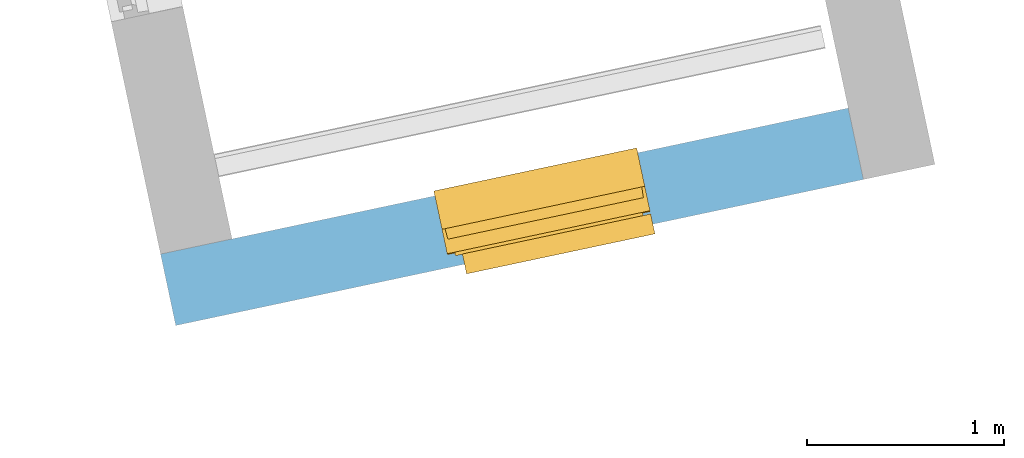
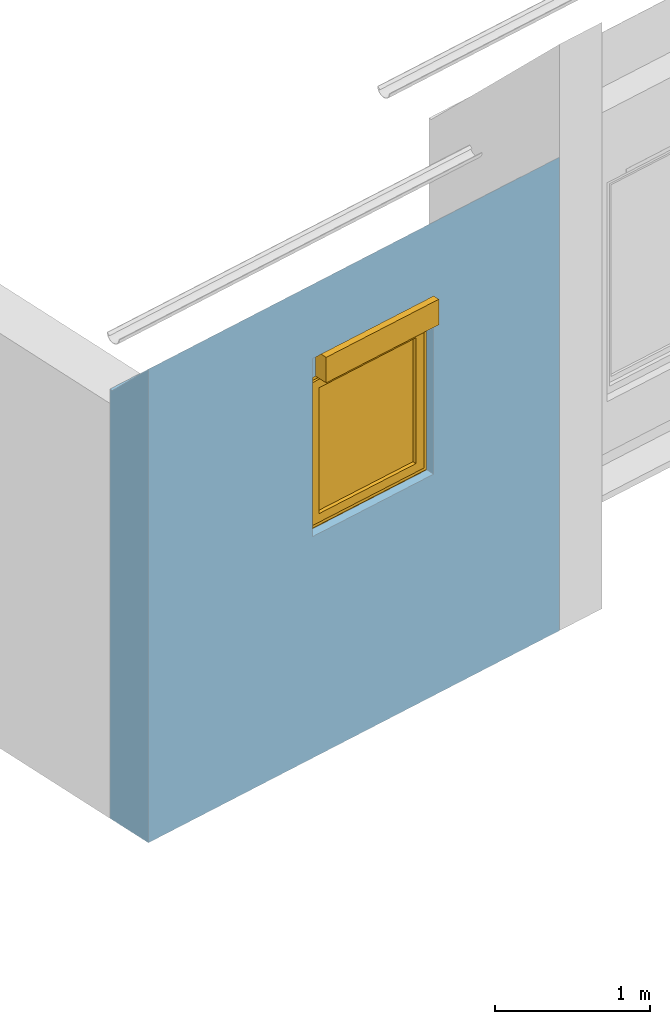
"""IFC2X3 building model written with IfcOpenShell, lengths in centimetres."""

import ifcopenshell
import ifcopenshell.guid

model = None  # the IFC model being written
_history = None  # IfcOwnerHistory: only IFC2X3 demands one
_inside = {}  # id of a spatial element -> (the spatial element, [elements in it])
_under = {}  # id of a project, library or spatial element -> (it, [spatial elements below it])
_declared = {}  # id of a project -> (the project, [libraries it declares])
_typed = {}  # id of a type object -> (the type object, [elements of that type])
_made_of = {}  # id of a material, layer set ... -> (it, [elements and type objects made of it])


def new_model(schema):
    """Start an empty IFC model of exactly this schema.

    Asked for "IFC4X3", IfcOpenShell would pick the latest addendum, in which some entities
    have other attributes; the version numbers below select the first issue.
    IFC2X3 requires an IfcOwnerHistory on every rooted entity: one is made here for all.
    """
    global model, _history
    if schema == "IFC4X3":
        model = ifcopenshell.file(schema_version=(4, 3, 0, 0))
    else:
        model = ifcopenshell.file(schema=schema)
    _inside.clear()
    _under.clear()
    _declared.clear()
    _typed.clear()
    _made_of.clear()
    _history = None
    if model.schema == "IFC2X3":
        org = make("IfcOrganization", Name="unknown")
        user = make(
            "IfcPersonAndOrganization",
            ThePerson=make("IfcPerson", FamilyName="unknown"),
            TheOrganization=org,
        )
        app = make(
            "IfcApplication",
            ApplicationDeveloper=org,
            Version="unknown",
            ApplicationFullName="unknown",
            ApplicationIdentifier="unknown",
        )
        _history = make(
            "IfcOwnerHistory",
            OwningUser=user,
            OwningApplication=app,
            ChangeAction="ADDED",
            CreationDate=0,
        )
    return model


def make(cls, **values):
    """One entity of the class cls with the attributes given. An attribute that is None is left unset."""
    return model.create_entity(
        cls, **{name: value for name, value in values.items() if value is not None}
    )


def entity(cls, *values):
    """Any entity or typed value of the class cls, its attributes in the order of the schema. None: left unset."""
    e = model.create_entity(cls)
    for i, value in enumerate(values):
        if value is not None:
            e[i] = value
    return e


def rooted(cls, **values):
    """An entity with a GlobalId (a new one), such as an element, a storey or a relation."""
    return make(cls, GlobalId=ifcopenshell.guid.new(), OwnerHistory=_history, **values)


def si_unit(unit_type, name, prefix=None):
    """IfcSIUnit, for example si_unit("LENGTHUNIT", "METRE", prefix="MILLI")."""
    return make("IfcSIUnit", UnitType=unit_type, Prefix=prefix, Name=name)


def converted_unit(unit_type, name, factor, base, dimensions=None, offset=None):
    """IfcConversionBasedUnit, such as the inch: factor (a typed value) times the base unit."""
    return make(
        "IfcConversionBasedUnit"
        if offset is None
        else "IfcConversionBasedUnitWithOffset",
        ConversionOffset=offset,
        Dimensions=None
        if dimensions is None
        else entity("IfcDimensionalExponents", *dimensions),
        UnitType=unit_type,
        Name=name,
        ConversionFactor=make(
            "IfcMeasureWithUnit", ValueComponent=factor, UnitComponent=base
        ),
    )


def derived_unit(unit_type, elements):
    """IfcDerivedUnit: a product of units, each with its exponent."""
    return make(
        "IfcDerivedUnit",
        Elements=[
            make("IfcDerivedUnitElement", Unit=unit, Exponent=power)
            for unit, power in elements
        ],
        UnitType=unit_type,
    )


def assignment(units):
    """IfcUnitAssignment: the units of a project."""
    return None if units is None else make("IfcUnitAssignment", Units=units)


def point(xyz):
    """IfcCartesianPoint."""
    return None if xyz is None else make("IfcCartesianPoint", Coordinates=xyz)


def direction(xyz):
    """IfcDirection."""
    return None if xyz is None else make("IfcDirection", DirectionRatios=xyz)


def frame(location, z_axis=None, x_axis=None):
    """IfcAxis2Placement3D, a coordinate frame: its origin and axes. An axis left out is left unset."""
    return make(
        "IfcAxis2Placement3D",
        Location=point(location),
        Axis=direction(z_axis),
        RefDirection=direction(x_axis),
    )


def frame_2d(location, x_axis=None):
    """IfcAxis2Placement2D, a coordinate frame in the plane: its origin and x axis."""
    return make(
        "IfcAxis2Placement2D", Location=point(location), RefDirection=direction(x_axis)
    )


def origin():
    """The frame at (0, 0, 0) with its axes left unset."""
    return frame((0.0, 0.0, 0.0))


def place(relative_to, where):
    """IfcLocalPlacement: puts the frame where relative to a parent placement (None: the world)."""
    return make(
        "IfcLocalPlacement", PlacementRelTo=relative_to, RelativePlacement=where
    )


def context(
    kind, dimensions, precision=None, world=None, true_north=None, identifier=None
):
    """IfcGeometricRepresentationContext, for example the 3D "Model" context."""
    return make(
        "IfcGeometricRepresentationContext",
        ContextIdentifier=identifier,
        ContextType=kind,
        CoordinateSpaceDimension=dimensions,
        Precision=precision,
        WorldCoordinateSystem=world,
        TrueNorth=true_north,
    )


def subcontext(parent, identifier, kind, view, scale=None):
    """IfcGeometricRepresentationSubContext, for example "Body" below "Model"."""
    return make(
        "IfcGeometricRepresentationSubContext",
        ContextIdentifier=identifier,
        ContextType=kind,
        ParentContext=parent,
        TargetScale=scale,
        TargetView=view,
    )


def project(units=None, contexts=None):
    """IfcProject with its units and contexts."""
    return rooted(
        "IfcProject",
        Name="project",
        RepresentationContexts=contexts,
        UnitsInContext=assignment(units),
    )


def spatial(cls, under=None, at=None, **own):
    """A site, building, storey or space (cls), placed at a placement, below another one or the project."""
    s = rooted(cls, ObjectPlacement=at, **own)
    if under is not None:
        _under.setdefault(under.id(), (under, []))[1].append(s)
    return s


def polyline(points):
    """IfcPolyline through the points."""
    return make("IfcPolyline", Points=[point(p) for p in points])


def profile(cls, at=None, kind="AREA", **sizes):
    """A parametric profile (cls). Its sizes go by their IFC names, for example OverallWidth=200.0."""
    return make(cls, ProfileType=kind, Position=at, **sizes)


def rectangle(**sizes):
    """IfcRectangleProfileDef."""
    return profile("IfcRectangleProfileDef", **sizes)


def extrude(swept, where, along, depth):
    """IfcExtrudedAreaSolid: the profile swept, set in the frame where, extruded along a direction by depth."""
    return make(
        "IfcExtrudedAreaSolid",
        SweptArea=swept,
        Position=where,
        ExtrudedDirection=direction(along),
        Depth=depth,
    )


def clip(a, b, op="DIFFERENCE"):
    """IfcBooleanClippingResult: the solid a cut by the half space b."""
    return make(
        "IfcBooleanClippingResult", Operator=op, FirstOperand=a, SecondOperand=b
    )


def bounded_halfspace(plane, agree, where, boundary):
    """IfcPolygonalBoundedHalfSpace: a half space limited to a polygon's prism."""
    return make(
        "IfcPolygonalBoundedHalfSpace",
        BaseSurface=make("IfcPlane", Position=plane),
        AgreementFlag=agree,
        Position=where,
        PolygonalBoundary=boundary,
    )


def faces_of(points, faces, orient=None, outer=None):
    """IfcFace entities. A face is a list of loops; a loop is a list of indices into points, from 0.

    orient and outer hold one flag for each loop. By default every Orientation is true, the
    first loop of a face is its IfcFaceOuterBound and the others are IfcFaceBound.
    """
    made = []
    for i, loops in enumerate(faces):
        bounds = []
        for j, loop in enumerate(loops):
            is_outer = j == 0 if outer is None else outer[i][j]
            bounds.append(
                make(
                    "IfcFaceOuterBound" if is_outer else "IfcFaceBound",
                    Bound=make("IfcPolyLoop", Polygon=[points[k] for k in loop]),
                    Orientation=True if orient is None else orient[i][j],
                )
            )
        made.append(make("IfcFace", Bounds=bounds))
    return made


def faceted_brep(points, faces, orient=None, outer=None, voids=None):
    """IfcFacetedBrep: a solid bounded by flat faces; with voids (closed shells), ...WithVoids."""
    shared = [point(p) for p in points]
    hull = make("IfcClosedShell", CfsFaces=faces_of(shared, faces, orient, outer))
    if voids is None:
        return make("IfcFacetedBrep", Outer=hull)
    return make(
        "IfcFacetedBrepWithVoids",
        Outer=hull,
        Voids=[
            make(cls, CfsFaces=faces_of(shared, fs, o, b)) for cls, fs, o, b in voids
        ],
    )


def shape(context_of_items, identifier, shape_type, items):
    """IfcShapeRepresentation: the items that make up one representation, for example the "Body"."""
    return make(
        "IfcShapeRepresentation",
        ContextOfItems=context_of_items,
        RepresentationIdentifier=identifier,
        RepresentationType=shape_type,
        Items=items,
    )


def source(mapping_origin, context_of_items, identifier, shape_type, items):
    """IfcRepresentationMap: a shape defined once, which mapped items show again and again."""
    return make(
        "IfcRepresentationMap",
        MappingOrigin=mapping_origin,
        MappedRepresentation=shape(context_of_items, identifier, shape_type, items),
    )


def transform(
    local_origin,
    x_axis=None,
    y_axis=None,
    z_axis=None,
    scale=None,
    scale2=None,
    scale3=None,
    uniform=True,
):
    """IfcCartesianTransformationOperator3D, or its non-uniform kind. x_axis, y_axis, z_axis: its Axis1, 2, 3."""
    if uniform:
        return make(
            "IfcCartesianTransformationOperator3D",
            Axis1=direction(x_axis),
            Axis2=direction(y_axis),
            LocalOrigin=point(local_origin),
            Scale=scale,
            Axis3=direction(z_axis),
        )
    return make(
        "IfcCartesianTransformationOperator3DnonUniform",
        Axis1=direction(x_axis),
        Axis2=direction(y_axis),
        LocalOrigin=point(local_origin),
        Scale=scale,
        Axis3=direction(z_axis),
        Scale2=scale2,
        Scale3=scale3,
    )


def mapped(mapping_source, mapping_target):
    """IfcMappedItem: shows the shape of a source again, moved by a transform."""
    return make(
        "IfcMappedItem", MappingSource=mapping_source, MappingTarget=mapping_target
    )


def material(Name=None, Category=None):
    """IfcMaterial."""
    return make("IfcMaterial", Name=Name, Category=Category)


def material_list(materials):
    """IfcMaterialList."""
    return make("IfcMaterialList", Materials=materials)


def layer(
    of_material, thickness, ventilated=None, Name=None, Category=None, Priority=None
):
    """IfcMaterialLayer: one layer of a wall or slab, of a material (None: an air gap)."""
    return make(
        "IfcMaterialLayer",
        Material=of_material,
        LayerThickness=thickness,
        IsVentilated=ventilated,
        Name=Name,
        Category=Category,
        Priority=Priority,
    )


def layer_set(layers, Name=None):
    """IfcMaterialLayerSet."""
    return make("IfcMaterialLayerSet", MaterialLayers=layers, LayerSetName=Name)


def layer_usage(for_layer_set, set_direction, sense, offset, extent=None):
    """IfcMaterialLayerSetUsage: how a layer set lies in its element."""
    return make(
        "IfcMaterialLayerSetUsage",
        ForLayerSet=for_layer_set,
        LayerSetDirection=set_direction,
        DirectionSense=sense,
        OffsetFromReferenceLine=offset,
        ReferenceExtent=extent,
    )


def made_of(thing, what):
    """Note that an element or type object is made of a material, layer set ...; save() writes the relation."""
    if what is not None:
        _made_of.setdefault(what.id(), (what, []))[1].append(thing)
    return thing


def type_object(cls, material=None, **own):
    """A type object (cls), such as IfcWallType, which elements share."""
    return made_of(rooted(cls, **own), material)


def type_shapes(of_type, sources):
    """Give a type object the sources (RepresentationMaps) that its elements show as mapped items."""
    of_type.RepresentationMaps = sources


def element(
    cls,
    number,
    at=None,
    inside=None,
    cuts=None,
    type_object=None,
    material=None,
    context=None,
    identifier="Body",
    shape_type=None,
    held_by="IfcProductDefinitionShape",
    body=None,
    shapes=None,
    **own,
):
    """One element of the class cls, such as IfcWall. Its Tag is "e" and its number.

    at: its placement. inside: the storey or other place that contains it. cuts: it is an
    opening in that element (IfcRelVoidsElement). A single representation is given by context,
    identifier, shape_type and body (its items); several are given by shapes. held_by: the class
    of the entity that holds the representations. save() writes the other relations.
    """
    e = rooted(cls, Tag="e%d" % number, ObjectPlacement=at, **own)
    if body is not None:
        shapes = [shape(context, identifier, shape_type, body)]
    if shapes is not None:
        e.Representation = make(held_by, Representations=shapes)
    if inside is not None:
        _inside.setdefault(inside.id(), (inside, []))[1].append(e)
    if cuts is not None:
        rooted(
            "IfcRelVoidsElement", RelatingBuildingElement=cuts, RelatedOpeningElement=e
        )
    if type_object is not None:
        _typed.setdefault(type_object.id(), (type_object, []))[1].append(e)
    return made_of(e, material)


def fill(opening, filler):
    """IfcRelFillsElement: the door or window that sits in an opening."""
    return rooted(
        "IfcRelFillsElement",
        RelatingOpeningElement=opening,
        RelatedBuildingElement=filler,
    )


def aggregate(whole, parts):
    """IfcRelAggregates: a whole, such as a stair, and the parts it consists of."""
    return rooted("IfcRelAggregates", RelatingObject=whole, RelatedObjects=parts)


def save(model, path):
    """Write the relations noted so far, then the file.

    IfcRelAggregates (storeys below a building ...), IfcRelContainedInSpatialStructure (elements
    in a storey), IfcRelDefinesByType, IfcRelAssociatesMaterial and IfcRelDeclares: one each for
    every whole, place, type object, material and project.
    """
    for whole, parts in _under.values():
        aggregate(whole, parts)
    for where, things in _inside.values():
        rooted(
            "IfcRelContainedInSpatialStructure",
            RelatedElements=things,
            RelatingStructure=where,
        )
    for kind, things in _typed.values():
        rooted("IfcRelDefinesByType", RelatedObjects=things, RelatingType=kind)
    for what, things in _made_of.values():
        rooted("IfcRelAssociatesMaterial", RelatedObjects=things, RelatingMaterial=what)
    for by, libraries in _declared.values():
        rooted("IfcRelDeclares", RelatingContext=by, RelatedDefinitions=libraries)
    model.write(path)


model = new_model("IFC2X3")

# Units and contexts
model_context = context("Model", 3, precision=0.001, world=origin(), true_north=direction((6.12303176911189e-17, 1.0)))
body_context = subcontext(model_context, "Body", "Model", "MODEL_VIEW")
ifc_project = project(units=[si_unit("LENGTHUNIT", "METRE", prefix="CENTI"), si_unit("AREAUNIT", "SQUARE_METRE"), si_unit("VOLUMEUNIT", "CUBIC_METRE"), converted_unit("PLANEANGLEUNIT", "DEGREE", entity("IfcRatioMeasure", 0.0174532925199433), si_unit("PLANEANGLEUNIT", "RADIAN"), dimensions=[0, 0, 0, 0, 0, 0, 0]), si_unit("MASSUNIT", "GRAM", prefix="KILO"), derived_unit("MASSDENSITYUNIT", [(si_unit("MASSUNIT", "GRAM", prefix="KILO"), 1), (si_unit("LENGTHUNIT", "METRE"), -3)]), derived_unit("IONCONCENTRATIONUNIT", [(si_unit("MASSUNIT", "GRAM", prefix="KILO"), 1), (si_unit("LENGTHUNIT", "METRE"), -3)]), derived_unit("MOMENTOFINERTIAUNIT", [(si_unit("LENGTHUNIT", "METRE"), 4)]), si_unit("TIMEUNIT", "SECOND"), si_unit("FREQUENCYUNIT", "HERTZ"), si_unit("THERMODYNAMICTEMPERATUREUNIT", "DEGREE_CELSIUS"), derived_unit("THERMALTRANSMITTANCEUNIT", [(si_unit("MASSUNIT", "GRAM", prefix="KILO"), 1), (si_unit("THERMODYNAMICTEMPERATUREUNIT", "KELVIN"), -1), (si_unit("TIMEUNIT", "SECOND"), -3)]), derived_unit("THERMALCONDUCTANCEUNIT", [(si_unit("MASSUNIT", "GRAM", prefix="KILO"), 1), (si_unit("THERMODYNAMICTEMPERATUREUNIT", "KELVIN"), -1), (si_unit("TIMEUNIT", "SECOND"), -3), (si_unit("LENGTHUNIT", "METRE"), 1)]), derived_unit("VOLUMETRICFLOWRATEUNIT", [(si_unit("LENGTHUNIT", "METRE"), 3), (si_unit("TIMEUNIT", "SECOND"), -1)]), derived_unit("MASSFLOWRATEUNIT", [(si_unit("MASSUNIT", "GRAM", prefix="KILO"), 1), (si_unit("TIMEUNIT", "SECOND"), -1)]), derived_unit("ROTATIONALFREQUENCYUNIT", [(si_unit("TIMEUNIT", "SECOND"), -1)]), si_unit("ELECTRICCURRENTUNIT", "AMPERE"), si_unit("ELECTRICVOLTAGEUNIT", "VOLT"), si_unit("POWERUNIT", "WATT"), si_unit("FORCEUNIT", "NEWTON", prefix="KILO"), si_unit("ILLUMINANCEUNIT", "LUX"), si_unit("LUMINOUSFLUXUNIT", "LUMEN"), si_unit("LUMINOUSINTENSITYUNIT", "CANDELA"), derived_unit("USERDEFINED", [(si_unit("MASSUNIT", "GRAM", prefix="KILO"), -1), (si_unit("LENGTHUNIT", "METRE"), -2), (si_unit("TIMEUNIT", "SECOND"), 3), (si_unit("LUMINOUSFLUXUNIT", "LUMEN"), 1)]), derived_unit("USERDEFINED", [(si_unit("MASSUNIT", "GRAM", prefix="KILO"), 1), (si_unit("TIMEUNIT", "SECOND"), -3), (si_unit("LENGTHUNIT", "METRE"), 3), (si_unit("ELECTRICCURRENTUNIT", "AMPERE"), -2)]), derived_unit("SOUNDPOWERUNIT", [(si_unit("MASSUNIT", "GRAM", prefix="KILO"), 1), (si_unit("TIMEUNIT", "SECOND"), -3), (si_unit("LENGTHUNIT", "METRE"), 2)]), derived_unit("SOUNDPRESSUREUNIT", [(si_unit("MASSUNIT", "GRAM", prefix="KILO"), 1), (si_unit("LENGTHUNIT", "METRE"), -1), (si_unit("TIMEUNIT", "SECOND"), -2)]), derived_unit("LINEARVELOCITYUNIT", [(si_unit("LENGTHUNIT", "METRE"), 1), (si_unit("TIMEUNIT", "SECOND"), -1)]), si_unit("PRESSUREUNIT", "PASCAL"), derived_unit("USERDEFINED", [(si_unit("MASSUNIT", "GRAM", prefix="KILO"), 1), (si_unit("LENGTHUNIT", "METRE"), -2), (si_unit("TIMEUNIT", "SECOND"), -2)]), derived_unit("LINEARFORCEUNIT", [(si_unit("MASSUNIT", "GRAM", prefix="KILO"), 1), (si_unit("TIMEUNIT", "SECOND"), -2)]), derived_unit("PLANARFORCEUNIT", [(si_unit("MASSUNIT", "GRAM", prefix="KILO"), 1), (si_unit("LENGTHUNIT", "METRE"), -1), (si_unit("TIMEUNIT", "SECOND"), -2)]), derived_unit("SPECIFICHEATCAPACITYUNIT", [(si_unit("THERMODYNAMICTEMPERATUREUNIT", "KELVIN"), -1), (si_unit("LENGTHUNIT", "METRE"), 2), (si_unit("TIMEUNIT", "SECOND"), -2)]), derived_unit("HEATINGVALUEUNIT", [(si_unit("LENGTHUNIT", "METRE"), 2), (si_unit("TIMEUNIT", "SECOND"), -2)]), derived_unit("VAPORPERMEABILITYUNIT", [(si_unit("LENGTHUNIT", "METRE"), -1), (si_unit("TIMEUNIT", "SECOND"), 1)]), derived_unit("DYNAMICVISCOSITYUNIT", [(si_unit("MASSUNIT", "GRAM", prefix="KILO"), 1), (si_unit("TIMEUNIT", "SECOND"), -1), (si_unit("LENGTHUNIT", "METRE"), -1)]), derived_unit("THERMALEXPANSIONCOEFFICIENTUNIT", [(si_unit("THERMODYNAMICTEMPERATUREUNIT", "KELVIN"), -1)]), derived_unit("MODULUSOFELASTICITYUNIT", [(si_unit("MASSUNIT", "GRAM", prefix="KILO"), 1), (si_unit("LENGTHUNIT", "METRE"), -1), (si_unit("TIMEUNIT", "SECOND"), -2)]), derived_unit("ISOTHERMALMOISTURECAPACITYUNIT", [(si_unit("LENGTHUNIT", "METRE"), 3), (si_unit("MASSUNIT", "GRAM", prefix="KILO"), -1)]), derived_unit("MOISTUREDIFFUSIVITYUNIT", [(si_unit("TIMEUNIT", "SECOND"), -1), (si_unit("LENGTHUNIT", "METRE"), 2)])], contexts=[model_context])

# Site, building, storey
site_placement = place(None, frame((14083.8920177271, -6853.25409548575, 6900.0), z_axis=(0.0, 0.0, 1.0), x_axis=(0.978188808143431, 0.207717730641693, 0.0)))
site = spatial("IfcSite", under=ifc_project, at=site_placement, Name="Surface", CompositionType="ELEMENT")
building_placement = place(site_placement, origin())
building = spatial("IfcBuilding", under=site, at=building_placement, CompositionType="ELEMENT")
storey_1_placement = place(building_placement, frame((0.0, 0.0, -17.0)))
storey_1 = spatial("IfcBuildingStorey", under=building, at=storey_1_placement, Name="Rez de chaussée (SD)", CompositionType="ELEMENT", Elevation=-16.9999999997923)

# Wall, opening
ifc_material_1 = material(Name="__ ENDUIT_Blanc")
ifc_layer_1 = layer(ifc_material_1, 2.0)
ifc_material_2 = material(Name="__ BETON_parpaings")
ifc_layer_2 = layer(ifc_material_2, 20.0)
ifc_material_3 = material(Name="__ ISOLANT (pat 1)")
ifc_layer_3 = layer(ifc_material_3, 13.0)
ifc_layer_4 = layer(ifc_material_1, 2.0)
ifc_layer_set = layer_set([ifc_layer_1, ifc_layer_2, ifc_layer_3, ifc_layer_4], Name="Mur de base:*BRIQUE 37 (20 +INT 13+2 + EXT 2) (Iso+BA13)(enduit)")
ifc_layer_usage = layer_usage(ifc_layer_set, "AXIS2", "NEGATIVE", 18.5)
wall_type = type_object("IfcWallType", Name="Mur de base:*BRIQUE 37 (20 +INT 13+2 + EXT 2) (Iso+BA13)(enduit)", PredefinedType="STANDARD", material=ifc_layer_set)
wall_placement = place(storey_1_placement, frame((-7163.9551432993, 15432.4391445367, -20.0)))
wall = element("IfcWallStandardCase", 1, at=wall_placement, inside=storey_1, type_object=wall_type, material=ifc_layer_usage, Name="Mur de base:*BRIQUE 37 (20 +INT 13+2 + EXT 2) (Iso+BA13)(enduit)", ObjectType="Mur de base:*BRIQUE 37 (20 +INT 13+2 + EXT 2) (Iso+BA13)(enduit)", context=body_context, shape_type="Clipping", body=[
    clip(clip(extrude(rectangle(XDim=356.000000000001, YDim=37.0000000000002, at=frame_2d((178.0, -8.66862137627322e-13), x_axis=(-1.0, 0.0))), origin(), (0.0, 0.0, 1.0), 371.999999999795), bounded_halfspace(frame((0.0, -18.500000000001, 372.0), z_axis=(0.0, 0.707106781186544, 0.707106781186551), x_axis=(-1.0, 0.0, 0.0)), False, frame((0.0, -18.500000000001, 372.0)), polyline([(0.0, 0.0), (356.0, 0.0), (356.0, 34.6740981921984), (0.0, 34.6740981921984), (0.0, 0.0)]))), bounded_halfspace(frame((356.0, 18.4999999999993, 337.325901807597), z_axis=(0.0, 0.0, -1.0), x_axis=(-1.0, 0.0, 0.0)), True, frame((356.0, 18.4999999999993, 337.325901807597)), polyline([(0.0, 0.0), (-356.0, 0.0), (-356.0, -2.32590180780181), (0.0, -2.32590180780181), (0.0, 0.0)]))),
])
opening_placement = place(wall_placement, frame((142.0, -23.4999999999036, 168.385044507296)))
opening = element("IfcOpeningElement", 2, at=opening_placement, cuts=wall, Name="Mur de base:*BRIQUE 37 (20 +INT 13+2 + EXT 2) (Iso+BA13)(enduit)", ObjectType="Opening", context=body_context, shape_type="Brep", body=[
    faceted_brep([(0.0, 0.0, 145.614955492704), (105.0, 0.0, 145.614955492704), (105.0, 10.2999999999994, 145.614955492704), (0.0, 10.2999999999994, 145.614955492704), (0.0, 0.0, 125.614955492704), (0.0, 5.0, 125.614955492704), (105.0, 5.0, 125.614955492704), (105.0, 0.0, 125.614955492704), (0.0, 5.0, 5.61495549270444), (105.0, 5.0, 5.61495549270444), (0.0, 42.0, 125.614955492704), (105.0, 42.0, 125.614955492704), (105.0, 42.0, 5.61495549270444), (0.0, 42.0, 5.61495549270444), (0.0, 10.2999999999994, 125.614955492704), (0.0, 44.500000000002, 5.61495549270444), (0.0, 44.500000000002, 0.0), (0.0, 13.9974883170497, 2.11559678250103), (0.0, 11.5000000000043, 2.11559678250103), (0.0, 11.5000000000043, 5.61495549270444), (105.0, 11.500000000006, 5.61495549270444), (105.0, 11.500000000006, 2.11559678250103), (105.0, 13.9974883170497, 2.11559678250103), (105.0, 44.500000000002, 0.0), (105.0, 44.500000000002, 5.61495549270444), (105.0, 30.3, 125.614955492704), (105.0, 30.3, 125.714955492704), (105.0, 30.2000000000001, 125.714955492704), (105.0, 30.2000000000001, 125.614955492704), (105.0, 10.2999999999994, 125.614955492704), (104.9, 30.2000000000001, 125.614955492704), (104.9, 30.3, 125.614955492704), (104.9, 30.2000000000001, 125.714955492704), (104.9, 30.3, 125.714955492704)], [[[0, 1, 2, 3]], [[4, 5, 6, 7]], [[4, 7, 1, 0]], [[6, 5, 8, 9]], [[10, 11, 12, 13]], [[5, 4, 0, 3, 14, 10, 13, 15, 16, 17, 18, 19, 8]], [[8, 19, 20, 9]], [[9, 20, 21, 22, 23, 24, 12, 11, 25, 26, 27, 28, 29, 2, 1, 7, 6]], [[10, 14, 29, 28, 30, 31, 25, 11]], [[17, 22, 21, 18]], [[18, 21, 20, 19]], [[15, 13, 12, 24]], [[15, 24, 23, 16]], [[16, 23, 22, 17]], [[32, 33, 31, 30]], [[32, 27, 26, 33]], [[33, 26, 25, 31]], [[30, 28, 27, 32]], [[3, 2, 29, 14]]]),
])

# Storey
storey_2_placement = place(building_placement, frame((0.0, 0.0, 17.0)))
storey_2 = spatial("IfcBuildingStorey", under=building, at=storey_2_placement, Name="Rez de chaussée", CompositionType="ELEMENT", Elevation=17.0000000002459)

# Window
ifc_material_4 = material(Name="<Unnamed>")
ifc_material_5 = material(Name="Fenêtre - Vitrage")
ifc_material_6 = material(Name="__ PVC_blanc (menuiseries)")
ifc_material_list = material_list([ifc_material_4, ifc_material_5, ifc_material_6])
window_style = type_object("IfcWindowStyle", Name="*PVC 1 VANTAIL1:OF 105x120", ConstructionType="NOTDEFINED", OperationType="NOTDEFINED", ParameterTakesPrecedence=False, Sizeable=False, material=ifc_material_list)
shared_shape = source(origin(), body_context, "Body", "Brep", [
    faceted_brep([(5.0, -31.5000000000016, 48.6149554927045), (15.0, -31.5000000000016, 48.6149554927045), (15.0, -29.5000000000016, 48.6149554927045), (5.0, -29.5000000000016, 48.6149554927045), (5.0, -31.5000000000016, 46.6149554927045), (5.0, -29.5000000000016, 46.6149554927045), (15.0, -29.5000000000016, 46.6149554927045), (15.0, -31.5000000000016, 46.6149554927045)], [[[0, 1, 2, 3]], [[4, 5, 6, 7]], [[1, 0, 4, 7]], [[2, 1, 7, 6]], [[3, 2, 6, 5]], [[0, 3, 5, 4]]]),
    faceted_brep([(5.0, -29.5000000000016, 50.6149554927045), (10.0, -29.5000000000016, 50.6149554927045), (10.0, -27.5000000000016, 50.6149554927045), (5.0, -27.5000000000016, 50.6149554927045), (5.0, -29.5000000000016, 45.6149554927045), (5.0, -27.5000000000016, 45.6149554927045), (10.0, -27.5000000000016, 45.6149554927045), (10.0, -29.5000000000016, 45.6149554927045)], [[[0, 1, 2, 3]], [[4, 5, 6, 7]], [[1, 0, 4, 7]], [[2, 1, 7, 6]], [[3, 2, 6, 5]], [[0, 3, 5, 4]]]),
    faceted_brep([(9.58351504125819, -32.2470370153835, 116.031440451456), (95.4164849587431, -32.2470370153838, 116.031440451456), (95.4164849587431, -31.4628216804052, 116.031440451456), (9.58351504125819, -31.4628216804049, 116.031440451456), (9.58351504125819, -32.2470370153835, 15.1984705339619), (9.58351504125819, -31.4628216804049, 15.1984705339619), (95.4164849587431, -31.4628216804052, 15.1984705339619), (95.4164849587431, -32.2470370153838, 15.1984705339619)], [[[0, 1, 2, 3]], [[4, 5, 6, 7]], [[1, 0, 4, 7]], [[2, 1, 7, 6]], [[3, 2, 6, 5]], [[0, 3, 5, 4]]]),
    faceted_brep([(95.4164849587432, -30.2602611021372, 116.031440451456), (9.5835150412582, -30.260261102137, 116.031440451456), (9.58351504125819, -30.260261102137, 15.1984705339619), (95.4164849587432, -30.2602611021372, 15.1984705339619), (95.4164849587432, -29.4602611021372, 116.031440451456), (95.4164849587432, -29.4602611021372, 15.1984705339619), (9.5835150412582, -29.460261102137, 116.031440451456), (9.5835150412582, -29.460261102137, 15.1984705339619)], [[[0, 1, 2, 3]], [[4, 0, 3, 5]], [[6, 4, 5, 7]], [[1, 6, 7, 2]], [[2, 7, 5, 3]], [[1, 0, 4, 6]]]),
    faceted_brep([(95.4164849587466, -32.2470370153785, 116.031440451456), (95.4164849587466, -29.4602611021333, 116.031440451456), (95.4164849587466, -29.4602611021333, 15.1984705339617), (95.4164849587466, -32.2470370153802, 15.1984705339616), (94.4308358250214, -34.3410294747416, 115.04579131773), (93.6686848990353, -32.2470370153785, 114.283640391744), (93.6686848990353, -32.2470370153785, 16.946270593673), (94.4308358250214, -34.3410294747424, 16.1841196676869), (101.123663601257, -32.4970370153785, 121.738619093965), (101.123663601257, -34.3410294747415, 121.738619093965), (101.123663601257, -34.3410294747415, 9.49129189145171), (101.123663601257, -32.4970370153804, 9.49129189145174), (98.7136636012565, -27.5808758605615, 119.328619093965), (98.7136636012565, -32.4970370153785, 119.328619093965), (98.7136636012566, -32.4970370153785, 11.9012918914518), (98.7136636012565, -27.5808758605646, 11.9012918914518), (93.645961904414, -29.4602611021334, 114.260917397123), (94.3300021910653, -27.5808758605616, 114.944957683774), (94.3300021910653, -27.5808758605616, 16.284953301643), (93.645961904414, -29.460261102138, 16.9689935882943), (9.58351504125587, -29.4602611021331, 15.1984705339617), (9.58351504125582, -32.2470370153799, 15.1984705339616), (11.3313151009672, -32.2470370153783, 16.946270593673), (10.5691641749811, -34.3410294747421, 16.1841196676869), (3.8763363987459, -34.3410294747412, 9.49129189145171), (3.8763363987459, -32.4970370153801, 9.49129189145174), (6.28633639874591, -32.4970370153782, 11.9012918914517), (6.28633639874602, -27.5808758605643, 11.9012918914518), (10.6699978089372, -27.5808758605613, 16.284953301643), (11.3540380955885, -29.4602611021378, 16.9689935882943), (9.58351504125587, -29.4602611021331, 116.031440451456), (9.58351504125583, -32.2470370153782, 116.031440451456), (11.3313151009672, -32.2470370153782, 114.283640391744), (10.5691641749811, -34.3410294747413, 115.04579131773), (3.8763363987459, -34.3410294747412, 121.738619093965), (3.8763363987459, -32.4970370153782, 121.738619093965), (6.28633639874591, -32.4970370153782, 119.328619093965), (6.28633639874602, -27.5808758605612, 119.328619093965), (10.6699978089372, -27.5808758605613, 114.944957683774), (11.3540380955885, -29.4602611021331, 114.260917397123)], [[[0, 1, 2, 3]], [[4, 5, 6, 7]], [[8, 9, 10, 11]], [[12, 13, 14, 15]], [[16, 17, 18, 19]], [[3, 2, 20, 21]], [[7, 6, 22, 23]], [[11, 10, 24, 25]], [[15, 14, 26, 27]], [[19, 18, 28, 29]], [[21, 20, 30, 31]], [[23, 22, 32, 33]], [[25, 24, 34, 35]], [[27, 26, 36, 37]], [[29, 28, 38, 39]], [[31, 30, 1, 0]], [[3, 21, 31, 0], [5, 32, 22, 6]], [[33, 32, 5, 4]], [[7, 23, 33, 4], [9, 34, 24, 10]], [[35, 34, 9, 8]], [[11, 25, 35, 8], [13, 36, 26, 14]], [[37, 36, 13, 12]], [[15, 27, 37, 12], [17, 38, 28, 18]], [[39, 38, 17, 16]], [[1, 30, 20, 2], [19, 29, 39, 16]]], outer=[[True], [True], [True], [True], [True], [True], [True], [True], [True], [True], [True], [True], [True], [True], [True], [True], [True, False], [True], [False, True], [True], [True, False], [True], [True, False], [True], [True, False]]),
    faceted_brep([(105.0, -19.8517126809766, 125.614955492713), (103.409026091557, -19.8517126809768, 125.614955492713), (103.121178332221, -25.3441751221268, 125.614955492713), (1.87882166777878, -25.3441751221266, 125.614955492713), (1.59097390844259, -19.8517126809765, 125.614955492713), (0.0, -19.8517126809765, 125.614955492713), (0.0, -32.5000000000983, 125.614955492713), (105.0, -32.5000000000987, 125.614955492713), (0.0, -32.5000000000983, 5.61495549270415), (0.0, -19.8517126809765, 5.61495549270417), (1.59097390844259, -19.8517126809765, 7.20592940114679), (103.409026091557, -19.8517126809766, 7.20592940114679), (105.0, -19.8517126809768, 5.61495549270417), (1.87882166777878, -25.3441751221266, 7.493777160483), (103.121178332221, -25.3441751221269, 7.493777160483), (99.3116576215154, -25.3441751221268, 11.3032978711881), (99.3116576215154, -25.3441751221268, 119.926613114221), (5.68834237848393, -25.3441751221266, 119.926613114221), (5.68834237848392, -25.3441751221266, 11.3032978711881), (6.28633639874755, -27.0808758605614, 11.9012918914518), (6.28633639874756, -27.0808758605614, 119.328619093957), (6.28633639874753, -27.5808758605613, 11.9012918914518), (6.28633639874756, -27.5808758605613, 119.328619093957), (98.7136636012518, -27.5808758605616, 119.328619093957), (98.7136636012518, -27.5808758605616, 11.9012918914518), (3.87692312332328, -27.5808758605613, 9.49187861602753), (101.123076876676, -27.5808758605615, 9.49187861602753), (101.123076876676, -27.5808758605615, 121.738032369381), (3.8769231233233, -27.5808758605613, 121.738032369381), (3.87692312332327, -32.5000000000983, 9.49187861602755), (3.8769231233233, -32.5000000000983, 121.738032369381), (105.0, -32.5000000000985, 5.61495549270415), (101.123076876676, -32.5000000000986, 121.738032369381), (101.123076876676, -32.5000000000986, 9.49187861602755), (98.7136636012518, -27.0808758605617, 119.328619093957), (98.7136636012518, -27.0808758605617, 11.9012918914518)], [[[0, 1, 2, 3, 4, 5, 6, 7]], [[8, 6, 5, 9]], [[5, 4, 10, 11, 1, 0, 12, 9]], [[4, 3, 13, 10]], [[3, 2, 14, 13], [15, 16, 17, 18]], [[19, 18, 17, 20]], [[21, 19, 20, 22]], [[21, 22, 23, 24], [25, 26, 27, 28]], [[29, 25, 28, 30]], [[7, 6, 8, 31], [29, 30, 32, 33]], [[32, 30, 28, 27]], [[23, 22, 20, 34]], [[17, 16, 34, 20]], [[26, 25, 29, 33]], [[19, 21, 24, 35]], [[15, 18, 19, 35]], [[11, 10, 13, 14]], [[8, 9, 12, 31]], [[27, 26, 33, 32]], [[35, 24, 23, 34]], [[15, 35, 34, 16]], [[14, 2, 1, 11]], [[12, 0, 7, 31]]], outer=[[True], [True], [True], [True], [True, False], [True], [True], [False, True], [True], [True, False], [True], [True], [True], [True], [True], [True], [True], [True], [True], [True], [True], [True], [True]]),
    faceted_brep([(105.0, -33.0, 2.11559678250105), (105.0, -30.5025116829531, 2.11559678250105), (105.0, -0.500000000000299, 0.0346790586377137), (105.0, -0.500000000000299, -1.4653209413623), (105.0, 0.0, -1.4653209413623), (105.0, 0.0, 0.501201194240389), (105.0, -30.4759468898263, 2.61495549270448), (105.0, -32.5000000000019, 2.61495549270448), (105.0, -32.5000000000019, 5.61495549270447), (105.0, -33.0, 5.61495549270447), (0.0, -33.0, 2.11559678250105), (0.0, -33.0, 5.61495549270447), (0.0, -32.5000000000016, 5.61495549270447), (0.0, -32.5000000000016, 2.61495549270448), (0.0, -30.475946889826, 2.61495549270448), (0.0, 0.0, 0.501201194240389), (0.0, 0.0, -1.4653209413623), (0.0, -0.499999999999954, -1.4653209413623), (0.0, -0.499999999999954, 0.0346790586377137), (0.0, -30.5025116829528, 2.11559678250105)], [[[0, 1, 2, 3, 4, 5, 6, 7, 8, 9]], [[10, 11, 12, 13, 14, 15, 16, 17, 18, 19]], [[9, 11, 10, 0]], [[8, 12, 11, 9]], [[7, 13, 12, 8]], [[6, 14, 13, 7]], [[5, 15, 14, 6]], [[4, 16, 15, 5]], [[3, 17, 16, 4]], [[2, 18, 17, 3]], [[1, 19, 18, 2]], [[0, 10, 19, 1]]]),
    faceted_brep([(105.0, -44.500000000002, 145.614955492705), (105.0, -44.500000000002, 125.614955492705), (105.0, -43.200000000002, 125.614955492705), (105.0, -43.200000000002, 145.614955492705), (7.50000000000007, -44.5000000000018, 145.614955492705), (7.50000000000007, -43.2000000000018, 145.614955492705), (7.50000000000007, -43.2000000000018, 125.614955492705), (7.50000000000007, -44.5000000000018, 125.614955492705)], [[[0, 1, 2, 3]], [[4, 5, 6, 7]], [[5, 4, 0, 3]], [[6, 5, 3, 2]], [[7, 6, 2, 1]], [[4, 7, 1, 0]]]),
    faceted_brep([(105.0, -43.200000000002, 145.614955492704), (105.0, -43.200000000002, 125.614955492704), (105.0, -34.200000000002, 125.614955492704), (105.0, -34.200000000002, 145.614955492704), (7.50000000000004, -43.2000000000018, 145.614955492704), (7.50000000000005, -34.2000000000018, 145.614955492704), (7.50000000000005, -34.2000000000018, 125.614955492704), (7.50000000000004, -43.2000000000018, 125.614955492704)], [[[0, 1, 2, 3]], [[4, 5, 6, 7]], [[5, 4, 0, 3]], [[6, 5, 3, 2]], [[7, 6, 2, 1]], [[4, 7, 1, 0]]]),
])
type_shapes(window_style, [shared_shape])
window_placement = place(opening_placement, frame((0.0, 44.5000000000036, 0.0)))
window = element("IfcWindow", 3, at=window_placement, inside=storey_2, type_object=window_style, material=ifc_material_list, Name="*PVC 1 VANTAIL1:OF 105x120", ObjectType="*PVC 1 VANTAIL1:OF 105x120", OverallHeight=147.080276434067, OverallWidth=110.000000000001, context=body_context, shape_type="MappedRepresentation", body=[
    mapped(shared_shape, transform((0.0, 0.0, 0.0), scale=1.0)),
])

fill(opening, window)

save(model, "model.ifc")
